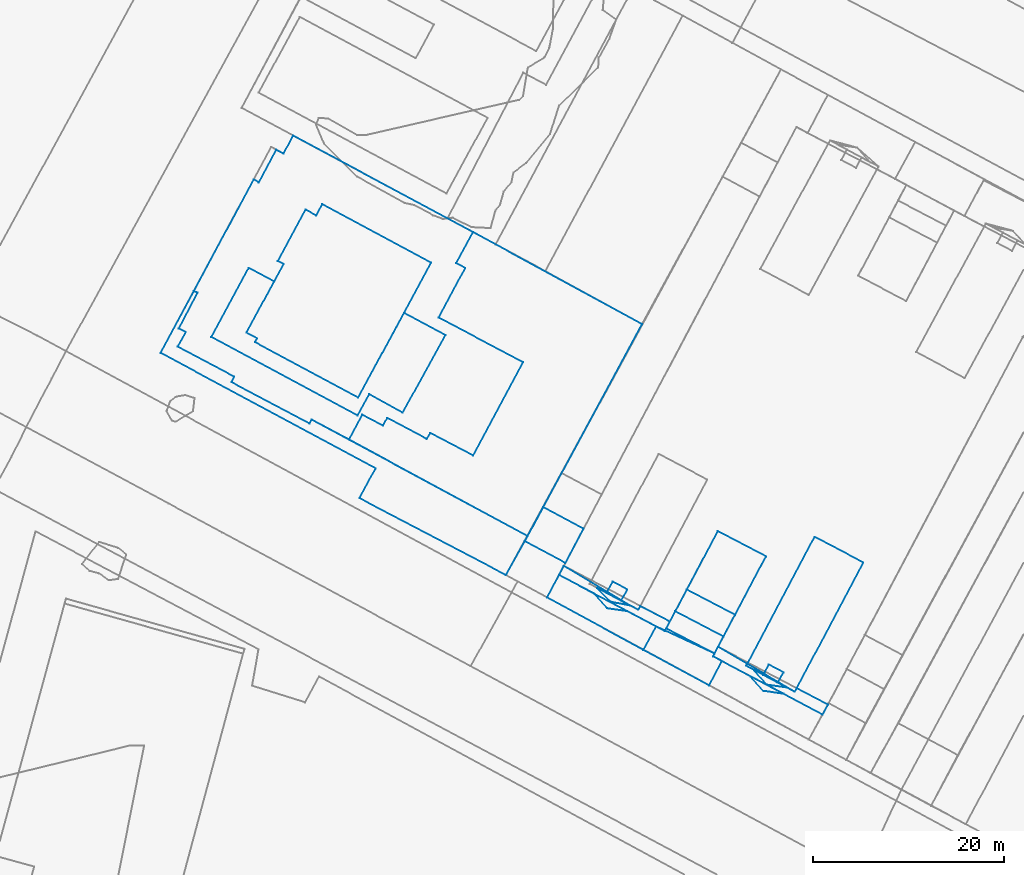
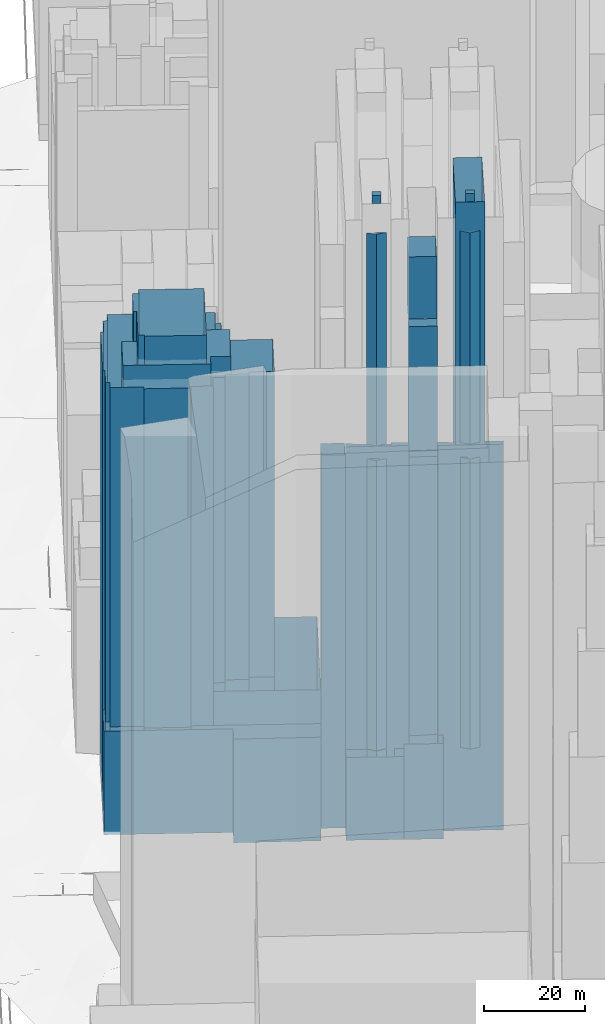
# Not in any storey, part 18 of 80: 20 walls.
"""IFC4 building model written with IfcOpenShell, lengths in metres."""

from ifc_helpers import new_model, si_unit, frame, origin_with_axes, place, context, subcontext, project, spatial, polygons, element, save


model = new_model("IFC4")

# Units and contexts
model_context = context("Model", 3, precision=1e-05, world=origin_with_axes())
body_context = subcontext(model_context, "Body", "Model", "MODEL_VIEW")
ifc_project = project(units=[si_unit("AREAUNIT", "SQUARE_METRE"), si_unit("LENGTHUNIT", "METRE")], contexts=[model_context])

# Sites, building
site_1_placement = place(None, origin_with_axes())
site_1 = spatial("IfcSite", under=ifc_project, at=site_1_placement, Name="Topoexport Site")
site_2_placement = place(site_1_placement, origin_with_axes())
site_2 = spatial("IfcSite", under=site_1, at=site_2_placement, Name="TPX_BATIMENTS")
building_1_placement = place(site_2_placement, frame((106.7237532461, 117.4349641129, 171.8733820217), z_axis=(0.0, 0.0, 1.0), x_axis=(1.0, 0.0, 0.0)))
building_1 = spatial("IfcBuilding", under=site_2, at=building_1_placement, Name="Batiment 29", CompositionType="ELEMENT")

# Wall
wall_1_placement = place(None, frame((106.7237532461, 117.4349641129, 171.8733820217), z_axis=(0.0, 0.0, 1.0), x_axis=(1.0, 0.0, 0.0)))
element("IfcWall", 1, at=wall_1_placement, inside=building_1, Name="Mur 0", context=body_context, shape_type="Tessellation", body=[
    polygons([(0.0, 0.0, 0.0), (1.5373911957, -0.8148118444, 0.0), (2.1242849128, 0.2578211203, 0.0), (0.5952053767, 1.0838316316, 0.0), (0.0, 0.0, 2.0), (1.5373911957, -0.8148118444, 2.0), (2.1242849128, 0.2578211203, 2.0), (0.5952053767, 1.0838316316, 2.0)], [[[6, 5, 2]], [[2, 5, 1]], [[7, 6, 3]], [[3, 6, 2]], [[5, 8, 1]], [[1, 8, 4]], [[8, 7, 4]], [[4, 7, 3]]]),
])

# Building
building_2_placement = place(site_2_placement, frame((105.7639228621, 117.9456215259, 113.8537947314), z_axis=(0.0, 0.0, 1.0), x_axis=(1.0, 0.0, 0.0)))
building_2 = spatial("IfcBuilding", under=site_2, at=building_2_placement, Name="Batiment 30", CompositionType="ELEMENT")

# Wall
wall_2_placement = place(None, frame((105.7639228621, 117.9456215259, 113.8537947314), z_axis=(0.0, 0.0, 1.0), x_axis=(1.0, 0.0, 0.0)))
element("IfcWall", 2, at=wall_2_placement, inside=building_2, Name="Mur 0", context=body_context, shape_type="Tessellation", body=[
    polygons([(0.0, 0.0, 0.0), (1.3516415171, -1.5386158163, 0.0), (3.4401714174, -1.8363224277, 0.0), (2.4972215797, -1.3254692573, 0.0), (0.0, 0.0, 51.0), (1.3516415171, -1.5386158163, 51.0), (3.4401714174, -1.8363224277, 51.0), (2.4972215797, -1.3254692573, 51.0)], [[[6, 5, 2]], [[2, 5, 1]], [[7, 6, 3]], [[3, 6, 2]], [[5, 8, 1]], [[1, 8, 4]], [[8, 7, 4]], [[4, 7, 3]]]),
])

# Building
building_3_placement = place(site_2_placement, frame((101.4674692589, 119.3723193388, 20.7697572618), z_axis=(0.0, 0.0, 1.0), x_axis=(1.0, 0.0, 0.0)))
building_3 = spatial("IfcBuilding", under=site_2, at=building_3_placement, Name="Batiment 31", CompositionType="ELEMENT")

# Wall
wall_3_placement = place(None, frame((101.4674692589, 119.3723193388, 20.7697572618), z_axis=(0.0, 0.0, 1.0), x_axis=(1.0, 0.0, 0.0)))
element("IfcWall", 3, at=wall_3_placement, inside=building_3, Name="Mur 0", context=body_context, shape_type="Tessellation", body=[
    polygons([(0.0, 0.0, 0.0), (11.4839478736, -6.1060781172, 0.0), (12.0459066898, -5.067041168, 0.0), (8.7673912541, -3.3398654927, 0.0), (8.5775159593, -3.7084452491, 0.0), (0.5287138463, 0.9942409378, 0.0), (0.0, 0.0, 93.0), (11.4839478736, -6.1060781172, 93.0), (12.0459066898, -5.067041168, 93.0), (8.7673912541, -3.3398654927, 93.0), (8.5775159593, -3.7084452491, 93.0), (0.5287138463, 0.9942409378, 93.0)], [[[8, 7, 2]], [[2, 7, 1]], [[9, 8, 3]], [[3, 8, 2]], [[10, 9, 4]], [[4, 9, 3]], [[11, 10, 5]], [[5, 10, 4]], [[7, 12, 1]], [[1, 12, 6]], [[12, 11, 6]], [[6, 11, 5]]]),
])

# Building
building_4_placement = place(site_2_placement, frame((105.4087196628, 117.2753608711, 40.8364053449), z_axis=(0.0, 0.0, 1.0), x_axis=(1.0, 0.0, 0.0)))
building_4 = spatial("IfcBuilding", under=site_2, at=building_4_placement, Name="Batiment 33", CompositionType="ELEMENT")

# Wall
wall_4_placement = place(None, frame((105.4087196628, 117.2753608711, 40.8364053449), z_axis=(0.0, 0.0, 1.0), x_axis=(1.0, 0.0, 0.0)))
element("IfcWall", 4, at=wall_4_placement, inside=building_4, Name="Mur 0", context=body_context, shape_type="Tessellation", body=[
    polygons([(0.0, 0.0, 0.0), (1.3598241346, -1.5163163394, 0.0), (3.4400426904, -1.825221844, 0.0), (0.0, 0.0, 70.0), (1.3598241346, -1.5163163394, 70.0), (3.4400426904, -1.825221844, 70.0)], [[[5, 4, 2]], [[2, 4, 1]], [[4, 6, 1]], [[1, 6, 3]], [[6, 5, 3]], [[3, 5, 2]]]),
])

# Building
building_5_placement = place(site_2_placement, frame((104.948482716, 118.3802403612, 20.8364840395), z_axis=(0.0, 0.0, 1.0), x_axis=(1.0, 0.0, 0.0)))
building_5 = spatial("IfcBuilding", under=site_2, at=building_5_placement, Name="Batiment 34", CompositionType="ELEMENT")

# Wall
wall_5_placement = place(None, frame((104.948482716, 118.3802403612, 20.8364840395), z_axis=(0.0, 0.0, 1.0), x_axis=(1.0, 0.0, 0.0)))
element("IfcWall", 5, at=wall_5_placement, inside=building_5, Name="Mur 0", context=body_context, shape_type="Tessellation", body=[
    polygons([(0.0, 0.0, 0.0), (5.0965025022, -2.7163662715, 0.0), (12.2665233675, 10.8228483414, 0.0), (7.1619736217, 13.5058093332, 0.0), (0.0, 0.0, 151.0), (5.0965025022, -2.7163662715, 151.0), (12.2665233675, 10.8228483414, 151.0), (7.1619736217, 13.5058093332, 151.0)], [[[6, 5, 2]], [[2, 5, 1]], [[7, 6, 3]], [[3, 6, 2]], [[5, 8, 1]], [[1, 8, 4]], [[8, 7, 4]], [[4, 7, 3]]]),
])

# Building
building_6_placement = place(site_2_placement, frame((98.7355611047, 126.3683150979, 140.9622219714), z_axis=(0.0, 0.0, 1.0), x_axis=(1.0, 0.0, 0.0)))
building_6 = spatial("IfcBuilding", under=site_2, at=building_6_placement, Name="Batiment 49", CompositionType="ELEMENT")

# Wall
wall_6_placement = place(None, frame((98.7355611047, 126.3683150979, 140.9622219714), z_axis=(0.0, 0.0, 1.0), x_axis=(1.0, 0.0, 0.0)))
element("IfcWall", 6, at=wall_6_placement, inside=building_6, Name="Mur 0", context=body_context, shape_type="Tessellation", body=[
    polygons([(0.0, 0.0, 0.0), (5.0366380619, -2.6504521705, 0.0), (8.2830739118, 3.4712880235, 0.0), (3.2464387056, 6.1217379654, 0.0), (0.0, 0.0, 15.0), (5.0366380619, -2.6504521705, 15.0), (8.2830739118, 3.4712880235, 15.0), (3.2464387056, 6.1217379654, 15.0)], [[[6, 5, 2]], [[2, 5, 1]], [[7, 6, 3]], [[3, 6, 2]], [[5, 8, 1]], [[1, 8, 4]], [[8, 7, 4]], [[4, 7, 3]]]),
])

# Building
building_7_placement = place(site_2_placement, frame((48.9439736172, 152.8241808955, 21.1794819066), z_axis=(0.0, 0.0, 1.0), x_axis=(1.0, 0.0, 0.0)))
building_7 = spatial("IfcBuilding", under=site_2, at=building_7_placement, Name="Batiment 180", CompositionType="ELEMENT")

# Wall
wall_7_placement = place(None, frame((48.9439736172, 152.8241808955, 21.1794819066), z_axis=(0.0, 0.0, 1.0), x_axis=(1.0, 0.0, 0.0)))
element("IfcWall", 7, at=wall_7_placement, inside=building_7, Name="Mur 0", context=body_context, shape_type="Tessellation", body=[
    polygons([(0.0, 0.0, 0.0), (15.3072963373, -8.2378124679, 0.0), (16.539143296, -6.0030615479, 0.0), (20.031093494, -7.9387212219, 0.0), (24.5122266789, 0.1735393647, 0.0), (20.1715989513, 2.4990246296, 0.0), (15.3699209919, -6.3608053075, 0.0), (4.5649061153, -0.5576359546, 0.0), (4.788158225, -0.1553634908, 0.0), (3.6753780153, 0.4423431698, 0.0), (6.5761073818, 5.8050944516, 0.0), (3.9173823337, 7.2286264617, 0.0), (0.0, 0.0, 110.0), (15.3072963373, -8.2378124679, 110.0), (16.539143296, -6.0030615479, 110.0), (20.031093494, -7.9387212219, 110.0), (24.5122266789, 0.1735393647, 110.0), (20.1715989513, 2.4990246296, 110.0), (15.3699209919, -6.3608053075, 110.0), (4.5649061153, -0.5576359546, 110.0), (4.788158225, -0.1553634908, 110.0), (3.6753780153, 0.4423431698, 110.0), (6.5761073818, 5.8050944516, 110.0), (3.9173823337, 7.2286264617, 110.0)], [[[14, 13, 2]], [[2, 13, 1]], [[15, 14, 3]], [[3, 14, 2]], [[16, 15, 4]], [[4, 15, 3]], [[17, 16, 5]], [[5, 16, 4]], [[18, 17, 6]], [[6, 17, 5]], [[19, 18, 7]], [[7, 18, 6]], [[20, 19, 8]], [[8, 19, 7]], [[21, 20, 9]], [[9, 20, 8]], [[22, 21, 10]], [[10, 21, 9]], [[23, 22, 11]], [[11, 22, 10]], [[13, 24, 1]], [[1, 24, 12]], [[24, 23, 12]], [[12, 23, 11]]]),
])

# Building
building_8_placement = place(site_2_placement, frame((52.6193516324, 153.2665240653, 20.9538410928), z_axis=(0.0, 0.0, 1.0), x_axis=(1.0, 0.0, 0.0)))
building_8 = spatial("IfcBuilding", under=site_2, at=building_8_placement, Name="Batiment 181", CompositionType="ELEMENT")

# Wall
wall_8_placement = place(None, frame((52.6193516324, 153.2665240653, 20.9538410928), z_axis=(0.0, 0.0, 1.0), x_axis=(1.0, 0.0, 0.0)))
element("IfcWall", 8, at=wall_8_placement, inside=building_8, Name="Mur 0", context=body_context, shape_type="Tessellation", body=[
    polygons([(0.0, 0.0, 0.0), (1.1127802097, -0.5977066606, 0.0), (0.8895281, -0.9999791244, 0.0), (11.6945429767, -6.8031484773, 0.0), (19.3390148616, 7.3188466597, 0.0), (7.9393204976, 13.448168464, 0.0), (7.3113819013, 12.2751425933, 0.0), (6.1901626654, 12.8727503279, 0.0), (3.2894387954, 7.5099976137, 0.0), (3.8925728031, 7.1839315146, 0.0), (0.0, 0.0, 116.0), (1.1127802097, -0.5977066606, 116.0), (0.8895281, -0.9999791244, 116.0), (11.6945429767, -6.8031484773, 116.0), (19.3390148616, 7.3188466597, 116.0), (7.9393204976, 13.448168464, 116.0), (7.3113819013, 12.2751425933, 116.0), (6.1901626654, 12.8727503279, 116.0), (3.2894387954, 7.5099976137, 116.0), (3.8925728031, 7.1839315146, 116.0)], [[[12, 11, 2]], [[2, 11, 1]], [[13, 12, 3]], [[3, 12, 2]], [[14, 13, 4]], [[4, 13, 3]], [[15, 14, 5]], [[5, 14, 4]], [[16, 15, 6]], [[6, 15, 5]], [[17, 16, 7]], [[7, 16, 6]], [[18, 17, 8]], [[8, 17, 7]], [[19, 18, 9]], [[9, 18, 8]], [[11, 20, 1]], [[1, 20, 10]], [[20, 19, 10]], [[10, 19, 9]]]),
])

# Building
building_9_placement = place(site_2_placement, frame((45.4357916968, 151.795361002, 20.6875388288), z_axis=(0.0, 0.0, 1.0), x_axis=(1.0, 0.0, 0.0)))
building_9 = spatial("IfcBuilding", under=site_2, at=building_9_placement, Name="Batiment 182", CompositionType="ELEMENT")

# Wall
wall_9_placement = place(None, frame((45.4357916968, 151.795361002, 20.6875388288), z_axis=(0.0, 0.0, 1.0), x_axis=(1.0, 0.0, 0.0)))
element("IfcWall", 9, at=wall_9_placement, inside=building_9, Name="Mur 0", context=body_context, shape_type="Tessellation", body=[
    polygons([(0.0, 0.0, 0.0), (5.9203309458, -3.1509334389, 0.0), (5.6146072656, -3.720696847, 0.0), (13.7856998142, -8.0556430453, 0.0), (14.0088230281, -7.6422696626, 0.0), (17.9245978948, -9.7284433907, 0.0), (19.3210010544, -7.125408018, 0.0), (21.4785274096, -8.2771984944, 0.0), (21.9247729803, -7.4504512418, 0.0), (26.0784283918, -9.6670859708, 0.0), (26.4255795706, -9.0302271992, 0.0), (30.9185296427, -11.3872491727, 0.0), (36.1572274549, -1.6341566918, 0.0), (27.3067714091, 3.0481492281, 0.0), (30.0995650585, 8.2542240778, 0.0), (29.1483116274, 8.7538826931, 0.0), (30.9087376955, 11.9939753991, 0.0), (12.0765422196, 22.100429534, 0.0), (11.0601529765, 20.2123506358, 0.0), (10.3126313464, 20.6144563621, 0.0), (8.4781679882, 17.206975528, 0.0), (7.9428155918, 17.5116241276, 0.0), (1.679905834, 5.8148724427, 0.0), (2.0700969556, 5.6528677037, 0.0), (0.1044447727, 1.9107990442, 0.0), (0.8347003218, 1.5417986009, 0.0), (0.0, 0.0, 107.0), (5.9203309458, -3.1509334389, 107.0), (5.6146072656, -3.720696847, 107.0), (13.7856998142, -8.0556430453, 107.0), (14.0088230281, -7.6422696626, 107.0), (17.9245978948, -9.7284433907, 107.0), (19.3210010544, -7.125408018, 107.0), (21.4785274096, -8.2771984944, 107.0), (21.9247729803, -7.4504512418, 107.0), (26.0784283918, -9.6670859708, 107.0), (26.4255795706, -9.0302271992, 107.0), (30.9185296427, -11.3872491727, 107.0), (36.1572274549, -1.6341566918, 107.0), (27.3067714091, 3.0481492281, 107.0), (30.0995650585, 8.2542240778, 107.0), (29.1483116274, 8.7538826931, 107.0), (30.9087376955, 11.9939753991, 107.0), (12.0765422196, 22.100429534, 107.0), (11.0601529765, 20.2123506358, 107.0), (10.3126313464, 20.6144563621, 107.0), (8.4781679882, 17.206975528, 107.0), (7.9428155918, 17.5116241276, 107.0), (1.679905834, 5.8148724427, 107.0), (2.0700969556, 5.6528677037, 107.0), (0.1044447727, 1.9107990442, 107.0), (0.8347003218, 1.5417986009, 107.0)], [[[28, 27, 2]], [[2, 27, 1]], [[29, 28, 3]], [[3, 28, 2]], [[30, 29, 4]], [[4, 29, 3]], [[31, 30, 5]], [[5, 30, 4]], [[32, 31, 6]], [[6, 31, 5]], [[33, 32, 7]], [[7, 32, 6]], [[34, 33, 8]], [[8, 33, 7]], [[35, 34, 9]], [[9, 34, 8]], [[36, 35, 10]], [[10, 35, 9]], [[37, 36, 11]], [[11, 36, 10]], [[38, 37, 12]], [[12, 37, 11]], [[39, 38, 13]], [[13, 38, 12]], [[40, 39, 14]], [[14, 39, 13]], [[41, 40, 15]], [[15, 40, 14]], [[42, 41, 16]], [[16, 41, 15]], [[43, 42, 17]], [[17, 42, 16]], [[44, 43, 18]], [[18, 43, 17]], [[45, 44, 19]], [[19, 44, 18]], [[46, 45, 20]], [[20, 45, 19]], [[47, 46, 21]], [[21, 46, 20]], [[48, 47, 22]], [[22, 47, 21]], [[49, 48, 23]], [[23, 48, 22]], [[50, 49, 24]], [[24, 49, 23]], [[51, 50, 25]], [[25, 50, 24]], [[27, 52, 1]], [[1, 52, 26]], [[52, 51, 26]], [[26, 51, 25]]]),
])

# Building
building_10_placement = place(site_2_placement, frame((63.3603895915, 142.0669176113, 21.031144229), z_axis=(0.0, 0.0, 1.0), x_axis=(1.0, 0.0, 0.0)))
building_10 = spatial("IfcBuilding", under=site_2, at=building_10_placement, Name="Batiment 186", CompositionType="ELEMENT")

# Wall
wall_10_placement = place(None, frame((63.3603895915, 142.0669176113, 21.031144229), z_axis=(0.0, 0.0, 1.0), x_axis=(1.0, 0.0, 0.0)))
element("IfcWall", 10, at=wall_10_placement, inside=building_10, Name="Mur 0", context=body_context, shape_type="Tessellation", body=[
    polygons([(0.0, 0.0, 0.0), (18.6972361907, -10.1080082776, 0.0), (30.6798296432, 12.080209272, 0.0), (12.9841398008, 21.7224187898, 0.0), (11.2237137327, 18.4823260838, 0.0), (12.1749671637, 17.9826674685, 0.0), (9.3821735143, 12.7765926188, 0.0), (18.2326295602, 8.0942866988, 0.0), (12.993931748, -1.658805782, 0.0), (8.5009816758, 0.6982161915, 0.0), (8.1538304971, 0.0613574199, 0.0), (4.0001750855, 2.2779921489, 0.0), (3.5539295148, 1.4512448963, 0.0), (1.3964031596, 2.6030353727, 0.0), (0.0, 0.0, 33.0), (18.6972361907, -10.1080082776, 33.0), (30.6798296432, 12.080209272, 33.0), (12.9841398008, 21.7224187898, 33.0), (11.2237137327, 18.4823260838, 33.0), (12.1749671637, 17.9826674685, 33.0), (9.3821735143, 12.7765926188, 33.0), (18.2326295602, 8.0942866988, 33.0), (12.993931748, -1.658805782, 33.0), (8.5009816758, 0.6982161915, 33.0), (8.1538304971, 0.0613574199, 33.0), (4.0001750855, 2.2779921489, 33.0), (3.5539295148, 1.4512448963, 33.0), (1.3964031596, 2.6030353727, 33.0)], [[[16, 15, 2]], [[2, 15, 1]], [[17, 16, 3]], [[3, 16, 2]], [[18, 17, 4]], [[4, 17, 3]], [[19, 18, 5]], [[5, 18, 4]], [[20, 19, 6]], [[6, 19, 5]], [[21, 20, 7]], [[7, 20, 6]], [[22, 21, 8]], [[8, 21, 7]], [[23, 22, 9]], [[9, 22, 8]], [[24, 23, 10]], [[10, 23, 9]], [[25, 24, 11]], [[11, 24, 10]], [[26, 25, 12]], [[12, 25, 11]], [[27, 26, 13]], [[13, 26, 12]], [[15, 28, 1]], [[1, 28, 14]], [[28, 27, 14]], [[14, 27, 13]]]),
])

# Building
building_11_placement = place(site_2_placement, frame((89.3637116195, 126.5148286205, 113.9436356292), z_axis=(0.0, 0.0, 1.0), x_axis=(1.0, 0.0, 0.0)))
building_11 = spatial("IfcBuilding", under=site_2, at=building_11_placement, Name="Batiment 188", CompositionType="ELEMENT")

# Wall
wall_11_placement = place(None, frame((89.3637116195, 126.5148286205, 113.9436356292), z_axis=(0.0, 0.0, 1.0), x_axis=(1.0, 0.0, 0.0)))
element("IfcWall", 11, at=wall_11_placement, inside=building_11, Name="Mur 0", context=body_context, shape_type="Tessellation", body=[
    polygons([(0.0, 0.0, 0.0), (1.4178709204, -1.4268270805, 0.0), (3.4315938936, -1.825327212, 0.0), (0.9512587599, -0.4996567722, 0.0), (0.0, 0.0, 51.0), (1.4178709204, -1.4268270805, 51.0), (3.4315938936, -1.825327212, 51.0), (0.9512587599, -0.4996567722, 51.0)], [[[6, 5, 2]], [[2, 5, 1]], [[7, 6, 3]], [[3, 6, 2]], [[5, 8, 1]], [[1, 8, 4]], [[8, 7, 4]], [[4, 7, 3]]]),
])

# Building
building_12_placement = place(site_2_placement, frame((90.3149703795, 126.0151718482, 171.9493104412), z_axis=(0.0, 0.0, 1.0), x_axis=(1.0, 0.0, 0.0)))
building_12 = spatial("IfcBuilding", under=site_2, at=building_12_placement, Name="Batiment 189", CompositionType="ELEMENT")

# Wall
wall_12_placement = place(None, frame((90.3149703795, 126.0151718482, 171.9493104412), z_axis=(0.0, 0.0, 1.0), x_axis=(1.0, 0.0, 0.0)))
element("IfcWall", 12, at=wall_12_placement, inside=building_12, Name="Mur 0", context=body_context, shape_type="Tessellation", body=[
    polygons([(0.0, 0.0, 0.0), (1.5289471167, -0.8149132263, 0.0), (2.1906461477, 0.358507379, 0.0), (0.6615702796, 1.1845212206, 0.0), (0.0, 0.0, 2.0), (1.5289471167, -0.8149132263, 2.0), (2.1906461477, 0.358507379, 2.0), (0.6615702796, 1.1845212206, 2.0)], [[[6, 5, 2]], [[2, 5, 1]], [[7, 6, 3]], [[3, 6, 2]], [[5, 8, 1]], [[1, 8, 4]], [[8, 7, 4]], [[4, 7, 3]]]),
])

# Building
building_13_placement = place(site_2_placement, frame((89.049807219, 125.9227641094, 40.9291720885), z_axis=(0.0, 0.0, 1.0), x_axis=(1.0, 0.0, 0.0)))
building_13 = spatial("IfcBuilding", under=site_2, at=building_13_placement, Name="Batiment 190", CompositionType="ELEMENT")

# Wall
wall_13_placement = place(None, frame((89.049807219, 125.9227641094, 40.9291720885), z_axis=(0.0, 0.0, 1.0), x_axis=(1.0, 0.0, 0.0)))
element("IfcWall", 13, at=wall_13_placement, inside=building_13, Name="Mur 0", context=body_context, shape_type="Tessellation", body=[
    polygons([(0.0, 0.0, 0.0), (1.3513787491, -1.5164173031, 0.0), (3.4399056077, -1.8141285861, 0.0), (0.0, 0.0, 70.0), (1.3513787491, -1.5164173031, 70.0), (3.4399056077, -1.8141285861, 70.0)], [[[5, 4, 2]], [[2, 4, 1]], [[4, 6, 1]], [[1, 6, 3]], [[6, 5, 3]], [[3, 5, 2]]]),
])

# Building
building_14_placement = place(site_2_placement, frame((85.346445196, 127.8892664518, 20.9224524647), z_axis=(0.0, 0.0, 1.0), x_axis=(1.0, 0.0, 0.0)))
building_14 = spatial("IfcBuilding", under=site_2, at=building_14_placement, Name="Batiment 191", CompositionType="ELEMENT")

# Wall
wall_14_placement = place(None, frame((85.346445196, 127.8892664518, 20.9224524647), z_axis=(0.0, 0.0, 1.0), x_axis=(1.0, 0.0, 0.0)))
element("IfcWall", 14, at=wall_14_placement, inside=building_14, Name="Mur 0", context=body_context, shape_type="Tessellation", body=[
    polygons([(0.0, 0.0, 0.0), (11.0759435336, -5.8665913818, 0.0), (11.6132272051, -4.8833535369, 0.0), (8.5131290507, -3.254018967, 0.0), (8.2981897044, -3.6450938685, 0.0), (7.4488603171, -3.1997650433, 0.0), (0.5122211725, 0.9607414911, 0.0), (0.0, 0.0, 93.0), (11.0759435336, -5.8665913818, 93.0), (11.6132272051, -4.8833535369, 93.0), (8.5131290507, -3.254018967, 93.0), (8.2981897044, -3.6450938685, 93.0), (7.4488603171, -3.1997650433, 93.0), (0.5122211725, 0.9607414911, 93.0)], [[[9, 8, 2]], [[2, 8, 1]], [[10, 9, 3]], [[3, 9, 2]], [[11, 10, 4]], [[4, 10, 3]], [[12, 11, 5]], [[5, 11, 4]], [[13, 12, 6]], [[6, 12, 5]], [[8, 14, 1]], [[1, 14, 7]], [[14, 13, 7]], [[7, 13, 6]]]),
])

# Building
building_15_placement = place(site_2_placement, frame((81.7767093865, 131.433841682, 21.0074778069), z_axis=(0.0, 0.0, 1.0), x_axis=(1.0, 0.0, 0.0)))
building_15 = spatial("IfcBuilding", under=site_2, at=building_15_placement, Name="Batiment 193", CompositionType="ELEMENT")

# Wall
wall_15_placement = place(None, frame((81.7767093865, 131.433841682, 21.0074778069), z_axis=(0.0, 0.0, 1.0), x_axis=(1.0, 0.0, 0.0)))
element("IfcWall", 15, at=wall_15_placement, inside=building_15, Name="Mur 0", context=body_context, shape_type="Tessellation", body=[
    polygons([(0.0, 0.0, 0.0), (4.2388447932, -2.2822511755, 0.0), (6.1388940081, 1.2925328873, 0.0), (1.9339412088, 3.5640742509, 0.0), (0.0, 0.0, 90.0), (4.2388447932, -2.2822511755, 90.0), (6.1388940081, 1.2925328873, 90.0), (1.9339412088, 3.5640742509, 90.0)], [[[6, 5, 2]], [[2, 5, 1]], [[7, 6, 3]], [[3, 6, 2]], [[5, 8, 1]], [[1, 8, 4]], [[8, 7, 4]], [[4, 7, 3]]]),
])

# Building
building_16_placement = place(site_2_placement, frame((43.6198790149, 151.1525582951, 20.8515693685), z_axis=(0.0, 0.0, 1.0), x_axis=(1.0, 0.0, 0.0)))
building_16 = spatial("IfcBuilding", under=site_2, at=building_16_placement, Name="Batiment 195", CompositionType="ELEMENT")

# Wall
wall_16_placement = place(None, frame((43.6198790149, 151.1525582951, 20.8515693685), z_axis=(0.0, 0.0, 1.0), x_axis=(1.0, 0.0, 0.0)))
element("IfcWall", 16, at=wall_16_placement, inside=building_16, Name="Mur 0", context=body_context, shape_type="Tessellation", body=[
    polygons([(0.0, 0.0, 0.0), (22.5189582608, -12.0954008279, 0.0), (20.8331965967, -15.2236014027, 0.0), (36.1635464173, -23.2612748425, 0.0), (38.4377467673, -19.1936489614, 0.0), (15.8247357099, -6.9994669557, 0.0), (15.6016124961, -7.4128403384, 0.0), (7.4305199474, -3.07789414, 0.0), (7.7362436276, -2.508130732, 0.0), (1.8159126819, 0.6428027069, 0.0), (2.6506130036, 2.1846013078, 0.0), (1.9203574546, 2.5536017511, 0.0), (3.8860096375, 6.2956704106, 0.0), (3.4958185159, 6.4576751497, 0.0), (0.0, 0.0, 25.0), (22.5189582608, -12.0954008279, 25.0), (20.8331965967, -15.2236014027, 25.0), (36.1635464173, -23.2612748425, 25.0), (38.4377467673, -19.1936489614, 25.0), (15.8247357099, -6.9994669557, 25.0), (15.6016124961, -7.4128403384, 25.0), (7.4305199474, -3.07789414, 25.0), (7.7362436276, -2.508130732, 25.0), (1.8159126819, 0.6428027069, 25.0), (2.6506130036, 2.1846013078, 25.0), (1.9203574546, 2.5536017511, 25.0), (3.8860096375, 6.2956704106, 25.0), (3.4958185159, 6.4576751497, 25.0)], [[[16, 15, 2]], [[2, 15, 1]], [[17, 16, 3]], [[3, 16, 2]], [[18, 17, 4]], [[4, 17, 3]], [[19, 18, 5]], [[5, 18, 4]], [[20, 19, 6]], [[6, 19, 5]], [[21, 20, 7]], [[7, 20, 6]], [[22, 21, 8]], [[8, 21, 7]], [[23, 22, 9]], [[9, 22, 8]], [[24, 23, 10]], [[10, 23, 9]], [[25, 24, 11]], [[11, 24, 10]], [[26, 25, 12]], [[12, 25, 11]], [[27, 26, 13]], [[13, 26, 12]], [[15, 28, 1]], [[1, 28, 14]], [[28, 27, 14]], [[14, 27, 13]]]),
])

# Building
building_17_placement = place(site_2_placement, frame((84.0991378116, 125.5322079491, 20.8772412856), z_axis=(0.0, 0.0, 1.0), x_axis=(1.0, 0.0, 0.0)))
building_17 = spatial("IfcBuilding", under=site_2, at=building_17_placement, Name="Batiment 202", CompositionType="ELEMENT")

# Wall
wall_17_placement = place(None, frame((84.0991378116, 125.5322079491, 20.8772412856), z_axis=(0.0, 0.0, 1.0), x_axis=(1.0, 0.0, 0.0)))
element("IfcWall", 17, at=wall_17_placement, inside=building_17, Name="Mur 0", context=body_context, shape_type="Tessellation", body=[
    polygons([(0.0, 0.0, 0.0), (10.0753325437, -5.4785327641, 0.0), (11.4144512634, -3.0315882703, 0.0), (8.3905750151, -1.4235724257, 0.0), (6.3020481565, -1.1258611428, 0.0), (4.9506694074, 0.3905561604, 0.0), (1.2473073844, 2.3570585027, 0.0), (0.0, 0.0, 20.0), (10.0753325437, -5.4785327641, 20.0), (11.4144512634, -3.0315882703, 20.0), (8.3905750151, -1.4235724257, 20.0), (6.3020481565, -1.1258611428, 20.0), (4.9506694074, 0.3905561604, 20.0), (1.2473073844, 2.3570585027, 20.0)], [[[9, 8, 2]], [[2, 8, 1]], [[10, 9, 3]], [[3, 9, 2]], [[11, 10, 4]], [[4, 10, 3]], [[12, 11, 5]], [[5, 11, 4]], [[13, 12, 6]], [[6, 12, 5]], [[8, 14, 1]], [[1, 14, 7]], [[14, 13, 7]], [[7, 13, 6]]]),
])

# Building
building_18_placement = place(site_2_placement, frame((97.5295573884, 124.0894496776, 110.9435975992), z_axis=(0.0, 0.0, 1.0), x_axis=(1.0, 0.0, 0.0)))
building_18 = spatial("IfcBuilding", under=site_2, at=building_18_placement, Name="Batiment 203", CompositionType="ELEMENT")

# Wall
wall_18_placement = place(None, frame((97.5295573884, 124.0894496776, 110.9435975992), z_axis=(0.0, 0.0, 1.0), x_axis=(1.0, 0.0, 0.0)))
element("IfcWall", 18, at=wall_18_placement, inside=building_18, Name="Mur 0", context=body_context, shape_type="Tessellation", body=[
    polygons([(0.0, 0.0, 0.0), (5.0366391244, -2.6504529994, 0.0), (6.2426417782, -0.3715867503, 0.0), (1.2060037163, 2.2788654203, 0.0), (0.0, 0.0, 30.0), (5.0366391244, -2.6504529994, 30.0), (6.2426417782, -0.3715867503, 30.0), (1.2060037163, 2.2788654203, 30.0)], [[[6, 5, 2]], [[2, 5, 1]], [[7, 6, 3]], [[3, 6, 2]], [[5, 8, 1]], [[1, 8, 4]], [[8, 7, 4]], [[4, 7, 3]]]),
])

# Building
building_19_placement = place(site_2_placement, frame((96.571222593, 122.290857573, 20.9256419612), z_axis=(0.0, 0.0, 1.0), x_axis=(1.0, 0.0, 0.0)))
building_19 = spatial("IfcBuilding", under=site_2, at=building_19_placement, Name="Batiment 204", CompositionType="ELEMENT")

# Wall
wall_19_placement = place(None, frame((96.571222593, 122.290857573, 20.9256419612), z_axis=(0.0, 0.0, 1.0), x_axis=(1.0, 0.0, 0.0)))
element("IfcWall", 19, at=wall_19_placement, inside=building_19, Name="Mur 0", context=body_context, shape_type="Tessellation", body=[
    polygons([(0.0, 0.0, 0.0), (5.0532629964, -2.6280560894, 0.0), (5.9949739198, -0.8518608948, 0.0), (0.9583347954, 1.7985921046, 0.0), (0.0, 0.0, 90.0), (5.0532629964, -2.6280560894, 90.0), (5.9949739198, -0.8518608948, 90.0), (0.9583347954, 1.7985921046, 90.0)], [[[6, 5, 2]], [[2, 5, 1]], [[7, 6, 3]], [[3, 6, 2]], [[5, 8, 1]], [[1, 8, 4]], [[8, 7, 4]], [[4, 7, 3]]]),
])

# Building
building_20_placement = place(site_2_placement, frame((94.1744703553, 120.053675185, 20.8772412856), z_axis=(0.0, 0.0, 1.0), x_axis=(1.0, 0.0, 0.0)))
building_20 = spatial("IfcBuilding", under=site_2, at=building_20_placement, Name="Batiment 205", CompositionType="ELEMENT")

# Wall
wall_20_placement = place(None, frame((94.1744703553, 120.053675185, 20.8772412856), z_axis=(0.0, 0.0, 1.0), x_axis=(1.0, 0.0, 0.0)))
element("IfcWall", 20, at=wall_20_placement, inside=building_20, Name="Mur 0", context=body_context, shape_type="Tessellation", body=[
    polygons([(0.0, 0.0, 0.0), (6.8809812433, -3.7281577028, 0.0), (8.2273785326, -1.1812071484, 0.0), (7.2929989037, -0.6813558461, 0.0), (7.4500152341, -0.3908737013, 0.0), (1.3391187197, 2.4469444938, 0.0), (0.0, 0.0, 23.0), (6.8809812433, -3.7281577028, 23.0), (8.2273785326, -1.1812071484, 23.0), (7.2929989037, -0.6813558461, 23.0), (7.4500152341, -0.3908737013, 23.0), (1.3391187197, 2.4469444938, 23.0)], [[[8, 7, 2]], [[2, 7, 1]], [[9, 8, 3]], [[3, 8, 2]], [[10, 9, 4]], [[4, 9, 3]], [[11, 10, 5]], [[5, 10, 4]], [[7, 12, 1]], [[1, 12, 6]], [[12, 11, 6]], [[6, 11, 5]]]),
])

save(model, "model.ifc")
